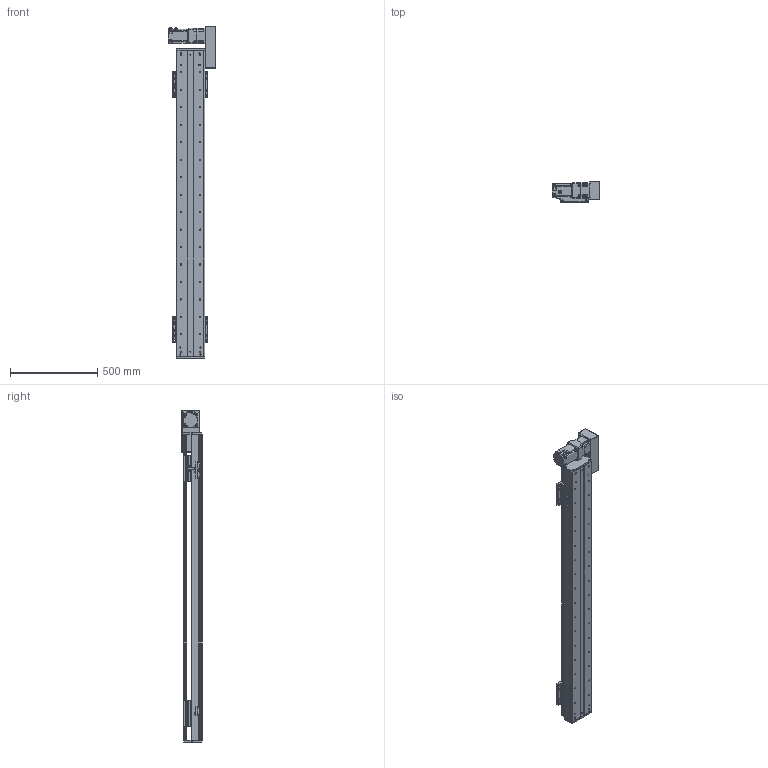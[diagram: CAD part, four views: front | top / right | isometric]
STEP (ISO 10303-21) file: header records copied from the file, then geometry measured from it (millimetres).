
FILE_DESCRIPTION(/* description */ (''),/* implementation_level */ '2;1');
FILE_NAME(/* name */ 'C:\Users\PC\Desktop\3D도면\STEP\DSB165-R7G-W1400-L.stp',/* time_stamp */ '2018-06-25T14:40:29+09:00',/* author */ ('PC'),/* organization */ (''),/* preprocessor_version */ 'ST-DEVELOPER v16.5',/* originating_system */ 'Autodesk Inventor 2017',/* authorisation */ '');
FILE_SCHEMA (('AUTOMOTIVE_DESIGN { 1 0 10303 214 3 1 1 }'));
Length unit declared in the file: millimetre
Products named in the file (12): DSB165-L7G-W1400-R_MIR; DSB165-BASE-L_MIR; hg-kr73__MIR; ab0901-p0401300102_MIR; 11-DSB165 BELT COVER_MIR; 12-DSB165-REAR COVER_MIR; 14-DSB165-FRONT COVER_MIR; DSB165-UP COVER_MIR; DSB165-TABLE(MSB20S)_MIR; DSR165-SENSOR DOG_MIR; pm-y65_step_MIR; SENSOR BRACKET(EE-SX674A)_MIR
Assembly tree (16 placements, depth 2):
  DSB165-L7G-W1400-R_MIR
    DSB165-BASE-L_MIR
    hg-kr73__MIR
    ab0901-p0401300102_MIR
    11-DSB165 BELT COVER_MIR
    12-DSB165-REAR COVER_MIR
    14-DSB165-FRONT COVER_MIR
    DSB165-UP COVER_MIR
    DSB165-TABLE(MSB20S)_MIR  x2
    DSR165-SENSOR DOG_MIR
    pm-y65_step_MIR  x3
    SENSOR BRACKET(EE-SX674A)_MIR  x3
Bounding box: 270 x 115 x 1900 mm (x, y, z)
Volume: 10695444.3 mm3; surface area: 2487300.9 mm2
Topology: 17 solids, 17 shells, 1685 faces, 4524 edges, 2978 vertices
Faces by surface type: plane 921, cylinder 628, cone 124, sphere 8, torus 4
Full cylindrical faces by diameter (mm): 2.459 x20, 3.5 x6, 4.134 x42, 4.5 x18, 5 x27, 5.5 x36, 5.9 x4, 6 x4, 6.6 x14, 6.647 x52, 6.8 x1, 7 x4, 7.6 x4, 8.4 x1, 8.5 x24, 8.7 x1, 9.5 x32, 11 x6, 14 x16, 19 x1, 22 x1, 24 x1, 25 x1, 28 x1, 67 x1, 70 x2, 80 x1
Entity records: 36508 total; most frequent: DIRECTION 6330, CARTESIAN_POINT 6123, ORIENTED_EDGE 5570, EDGE_CURVE 2785, AXIS2_PLACEMENT_3D 2335, VERTEX_POINT 1990, EDGE_LOOP 1767, LINE 1660
